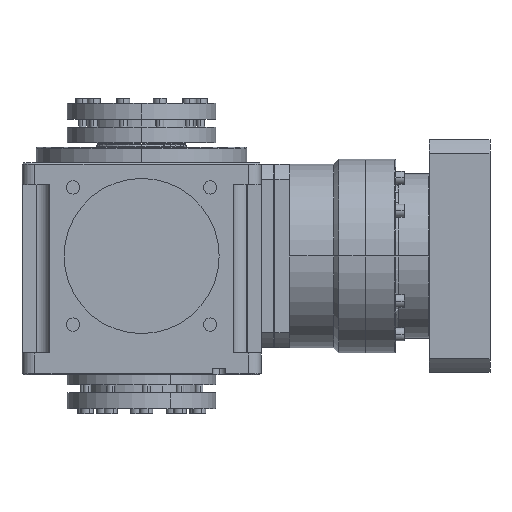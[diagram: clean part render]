
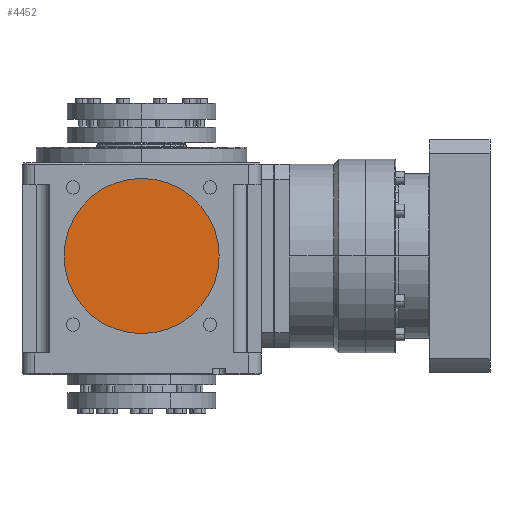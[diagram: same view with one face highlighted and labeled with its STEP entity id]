
A CAD part, left-side view. The second image highlights one B-rep face of the part: STEP entity #4452.
In plain terms, the highlighted planar face has unit normal (-1, 0, 0).
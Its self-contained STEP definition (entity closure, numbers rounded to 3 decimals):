
#305 = EDGE_LOOP ( 'NONE', ( #9054, #7456 ) ) ;
#1121 = CARTESIAN_POINT ( 'NONE',  ( -87.5, 0., -60. ) ) ;
#4452 = ADVANCED_FACE ( 'NONE', ( #13278 ), #8528, .T. ) ;
#5216 = VERTEX_POINT ( 'NONE', #18989 ) ;
#5303 = EDGE_CURVE ( 'NONE', #5216, #19938, #19128, .T. ) ;
#5880 = AXIS2_PLACEMENT_3D ( 'NONE', #20117, #20583, #15176 ) ;
#5973 = DIRECTION ( 'NONE',  ( 0., 0., -1. ) ) ;
#6079 = DIRECTION ( 'NONE',  ( -1., 0., 0. ) ) ;
#7456 = ORIENTED_EDGE ( 'NONE', *, *, #17429, .T. ) ;
#7479 = AXIS2_PLACEMENT_3D ( 'NONE', #21384, #6079, #5973 ) ;
#7497 = CIRCLE ( 'NONE', #7479, 60. ) ;
#8528 = PLANE ( 'NONE',  #5880 ) ;
#9054 = ORIENTED_EDGE ( 'NONE', *, *, #5303, .T. ) ;
#9083 = AXIS2_PLACEMENT_3D ( 'NONE', #10445, #15854, #14168 ) ;
#10445 = CARTESIAN_POINT ( 'NONE',  ( -87.5, 0., 0. ) ) ;
#13278 = FACE_OUTER_BOUND ( 'NONE', #305, .T. ) ;
#14168 = DIRECTION ( 'NONE',  ( 0., 0., -1. ) ) ;
#15176 = DIRECTION ( 'NONE',  ( 0., 0., -1. ) ) ;
#15854 = DIRECTION ( 'NONE',  ( -1., 0., 0. ) ) ;
#17429 = EDGE_CURVE ( 'NONE', #19938, #5216, #7497, .T. ) ;
#18989 = CARTESIAN_POINT ( 'NONE',  ( -87.5, 0., 60. ) ) ;
#19128 = CIRCLE ( 'NONE', #9083, 60. ) ;
#19938 = VERTEX_POINT ( 'NONE', #1121 ) ;
#20117 = CARTESIAN_POINT ( 'NONE',  ( -87.5, 0., 0. ) ) ;
#20583 = DIRECTION ( 'NONE',  ( -1., 0., 0. ) ) ;
#21384 = CARTESIAN_POINT ( 'NONE',  ( -87.5, 0., 0. ) ) ;
